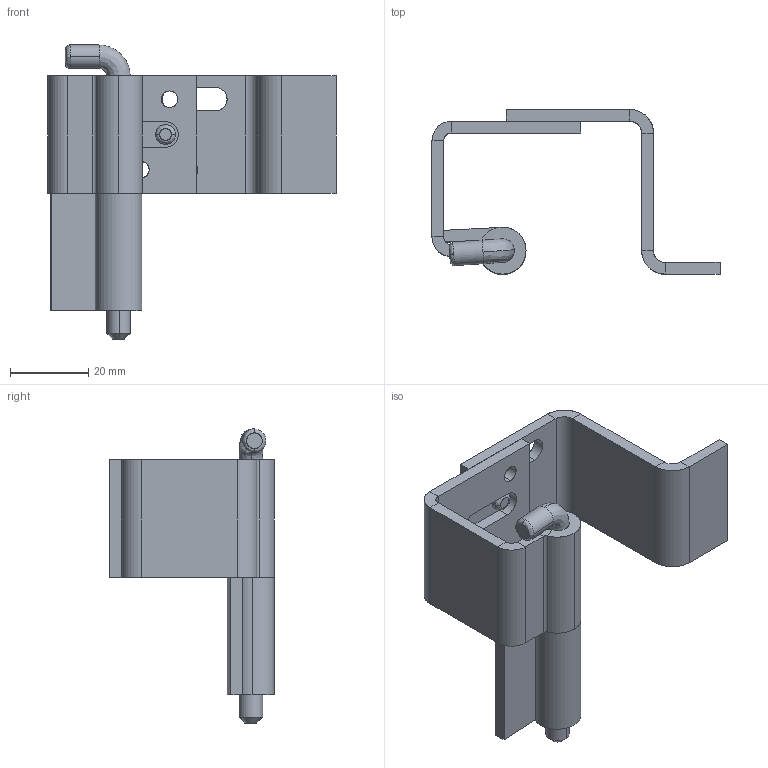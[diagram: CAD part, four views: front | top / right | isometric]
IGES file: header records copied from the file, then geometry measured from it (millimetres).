
Start section: SolidWorks IGES file using analytic representation for surfaces
Global section: file name: C:\Users\cbrechard\Desktop\CI 466.IGS; native system: SolidWorks 2017; preprocessor: SolidWorks 2017; author: cbrechard; date: 180122.155048; units: millimetre
Bounding box: 73.5 x 42 x 75 mm (x, y, z)
Surface area: 17399.1 mm2 (no closed solid volume)
Topology: 0 solids, 0 shells, 108 faces, 1312 edges, 1312 vertices
Faces by surface type: bspline 64, revolution 44
